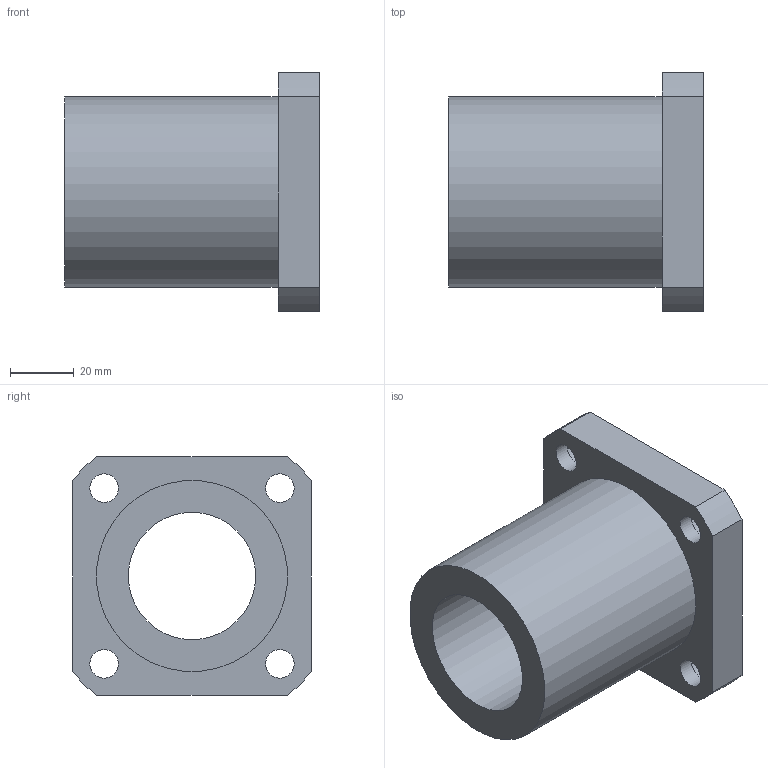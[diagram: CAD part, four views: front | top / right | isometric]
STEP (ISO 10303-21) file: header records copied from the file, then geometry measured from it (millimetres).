
FILE_DESCRIPTION(/* description */ (''),/* implementation_level */ '2;1');
FILE_NAME(/* name */ 'LMK40UU',/* time_stamp */ '2019-07-09T15:13:31+02:00',/* author */ ('VĂ©gh MĂˇtĂ©'),/* organization */ ('Bearing Kft'),/* preprocessor_version */ 'ST-DEVELOPER v16.7',/* originating_system */ 'DEX',/* authorisation */ $);
FILE_SCHEMA (('AUTOMOTIVE_DESIGN {1 0 10303 214 3 1 1}'));
Length unit declared in the file: millimetre
Products named in the file (1): LMK40UU
Bounding box: 80 x 75 x 75 mm (x, y, z)
Volume: 154420.2 mm3; surface area: 36386.1 mm2
Topology: 1 solids, 1 shells, 333 faces, 837 edges, 558 vertices
Faces by surface type: plane 260, bspline 57, cylinder 16
Full cylindrical faces by diameter (mm): 9 x4, 14 x4, 40 x1, 60 x1
Entity records: 12938 total; most frequent: CARTESIAN_POINT 5285, ORIENTED_EDGE 1648, DIRECTION 1296, EDGE_CURVE 824, LINE 678, VECTOR 678, VERTEX_POINT 558, EDGE_LOOP 408
